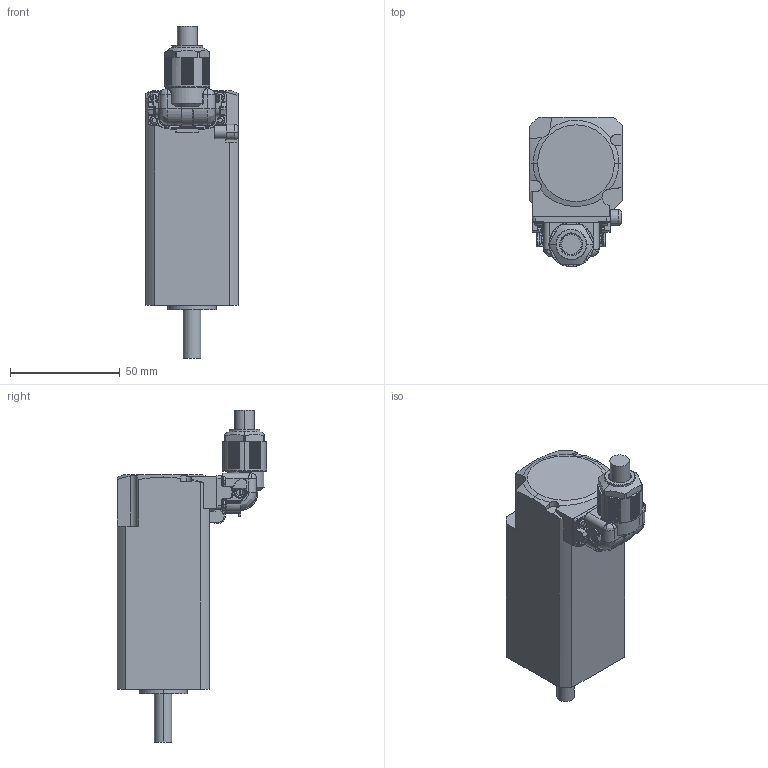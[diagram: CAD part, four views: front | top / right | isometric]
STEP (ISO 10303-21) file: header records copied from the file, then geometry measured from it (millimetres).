
FILE_DESCRIPTION (( 'STEP AP203' ), '1' );
FILE_NAME ('B1547_B.step', '2025-06-23T06:40:10', ( '' ), ( '' ), 'SwSTEP 2.0', 'SolidWorks 2023', '' );
FILE_SCHEMA (( 'CONFIG_CONTROL_DESIGN' ));
Length unit declared in the file: millimetre
Products named in the file (1): B1547_B
Bounding box: 42 x 68.3 x 151.45 mm (x, y, z)
Volume: 184661.2 mm3; surface area: 25175.5 mm2
Topology: 2 solids, 2 shells, 1035 faces, 2723 edges, 1678 vertices
Faces by surface type: plane 440, cylinder 384, bspline 148, cone 36, torus 27
Entity records: 35525 total; most frequent: CARTESIAN_POINT 11589, ORIENTED_EDGE 5386, DIRECTION 4527, EDGE_CURVE 2693, VERTEX_POINT 1678, AXIS2_PLACEMENT_3D 1557, LINE 1413, VECTOR 1413
